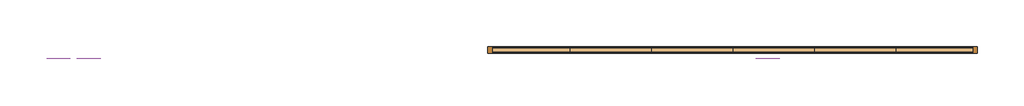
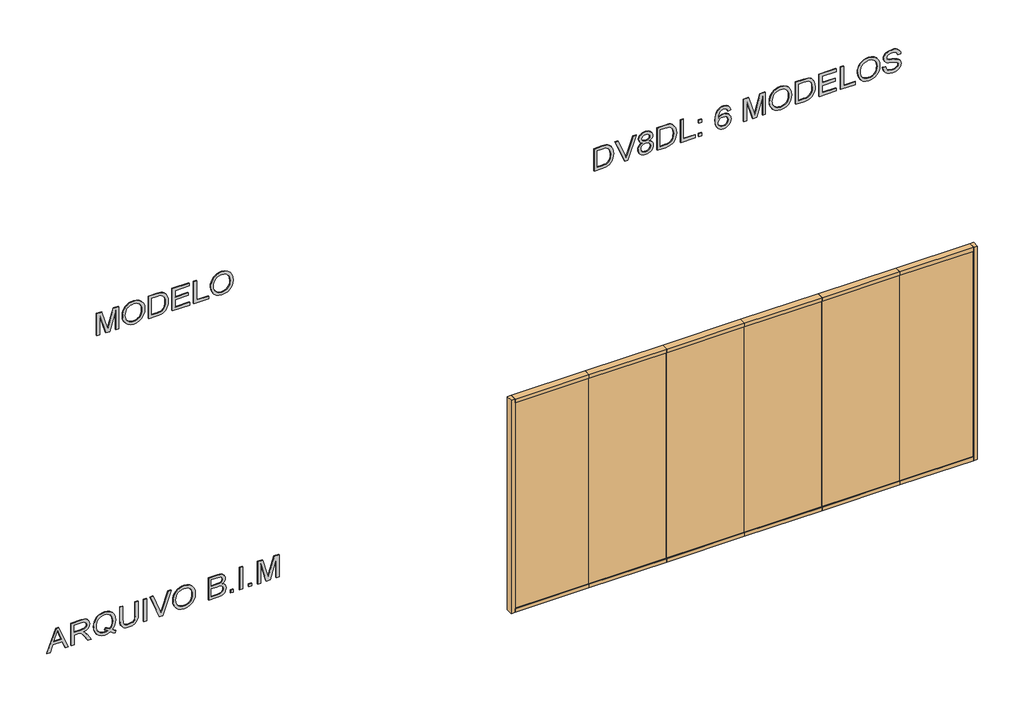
# One storey: 6 doors, 3 proxies.
"""IFC4 building model written with IfcOpenShell, lengths in millimetres."""

from ifc_helpers import new_model, si_unit, frame, origin, place, context, project, spatial, polyline, outline, extrude, transform, mapped, element, save
from components import dv8dl_8mm_8mm_laminado_b832ceb3, dv8dl_8mm_8mm_laminado_bab0a7c5, dv8dl_8mm_8mm_laminado_8a779c50, dv8dl_8mm_8mm_laminado_174facb9

model = new_model("IFC4")

# Units and contexts
model_context = context("Model", 3, world=origin())
ifc_project = project(units=[si_unit("LENGTHUNIT", "METRE", prefix="MILLI")], contexts=[model_context])

# Site, building, storey
site = spatial("IfcSite", under=ifc_project)
building = spatial("IfcBuilding", under=site)
storey = spatial("IfcBuildingStorey", under=building, Name="03 - Marelli - Planta Baixa - Exemplo", Elevation=-24000.0)

# Proxies
placement = place(None, origin())
element("IfcBuildingElementProxy", 1, Name="300mm Arial", ObjectType="300mm Arial", at=placement, inside=storey, context=model_context, shape_type="SweptSolid", body=[
    extrude(outline(polyline([(-22400.0, -7636.3146377), (-22400.0, -7596.5098058), (-22305.8222092, -7562.076051), (-22305.8222092, -7437.9526659), (-22400.0, -7403.4453347), (-22400.0, -7363.6405028), (-22098.6310696, -7483.9379153), (-22098.6310696, -7516.0172252), (-22400.0, -7636.3146377)]), holes=[polyline([(-22268.1510929, -7548.243688), (-22187.584936, -7518.739552), (-22136.3021859, -7499.9775703), (-22194.0596591, -7478.8611437), (-22268.1510929, -7451.7114525), (-22268.1510929, -7548.243688)])]), frame((0.0, 8778.3159498, 0.0), z_axis=(0.0, 1.0, 0.0), x_axis=(0.0, 0.0, 1.0)), (0.0, 0.0, 1.0), 10.0),
    extrude(outline(polyline([(-22400.0, -7323.3942126), (-22400.0, -7285.7230963), (-22268.1510929, -7285.7230963), (-22268.1510929, -7240.2528817), (-22269.4754681, -7218.4006911), (-22276.649167, -7200.484838), (-22296.183701, -7180.582422), (-22337.5336372, -7152.2555084), (-22400.0, -7113.0392877), (-22400.0, -7069.2613303), (-22318.3301971, -7119.5140108), (-22279.5554348, -7150.0482164), (-22263.4422034, -7171.4589486), (-22253.4542072, -7134.3488523), (-22245.4389783, -7119.9669655), (-22235.4095954, -7108.3671864), (-22210.7982899, -7093.0540983), (-22181.1102129, -7087.9497357), (-22157.2438684, -7091.0307474), (-22135.5296337, -7100.2737825), (-22118.0184507, -7114.6763626), (-22106.7612616, -7133.2360093), (-22100.6636176, -7158.629064), (-22098.6310696, -7193.5318683), (-22098.6310696, -7323.3942126), (-22400.0, -7323.3942126)]), holes=[polyline([(-22230.4799766, -7285.7230963), (-22136.3021859, -7285.7230963), (-22136.3021859, -7191.9131875), (-22139.5579415, -7162.1055488), (-22149.3252085, -7141.5501423), (-22164.1324588, -7129.6031746), (-22182.5081645, -7125.620852), (-22195.8162956, -7127.7085823), (-22208.0759631, -7133.9717732), (-22218.2111121, -7144.254075), (-22225.1456877, -7158.3991377), (-22229.1464044, -7177.1887106), (-22230.4799766, -7201.404543), (-22230.4799766, -7285.7230963)])]), frame((0.0, 8778.3159498, 0.0), z_axis=(0.0, 1.0, 0.0), x_axis=(0.0, 0.0, 1.0)), (0.0, 0.0, 1.0), 10.0),
    extrude(outline(polyline([(-22363.8739881, -6795.6307023), (-22340.3479345, -6777.1814202), (-22313.0326963, -6764.0664271), (-22281.9650618, -6756.2305406), (-22247.1818192, -6753.6185784), (-22205.3536364, -6757.9227978), (-22168.0136138, -6770.8354558), (-22136.8172207, -6791.9610794), (-22113.4199258, -6820.9041954), (-22098.7966164, -6855.7702114), (-22093.92218, -6894.6645354), (-22098.6862519, -6933.2553567), (-22112.9784674, -6967.9466288), (-22136.3849593, -6996.93573), (-22168.4918604, -7018.4200386), (-22206.944726, -7031.7189727), (-22249.3891112, -7036.1519507), (-22291.7967082, -7031.7097756), (-22329.6977507, -7018.3832504), (-22361.3539964, -6996.8161684), (-22385.0272028, -6967.6523232), (-22399.7884679, -6932.8322924), (-22404.7088895, -6894.2966534), (-22400.4414584, -6855.9449554), (-22387.639165, -6821.0881364), (-22408.47968, -6790.1308665), (-22422.8822601, -6759.063232), (-22395.2911105, -6748.9096889), (-22382.4704229, -6771.2953083), (-22363.8739881, -6795.6307023)]), holes=[polyline([(-22313.7684603, -6883.9223811), (-22342.6104088, -6893.6344658), (-22349.287467, -6873.2721974), (-22359.3122513, -6853.9767867), (-22365.1063928, -6873.6032912), (-22367.0377732, -6894.5173826), (-22365.1362832, -6916.2385151), (-22359.431813, -6935.9316982), (-22349.9243627, -6953.5969318), (-22336.6139322, -6969.2342158), (-22319.748842, -6982.0296115), (-22299.5774124, -6991.1691798), (-22276.0996433, -6996.6529208), (-22249.3155348, -6998.4808344), (-22221.8140564, -6996.6322274), (-22197.9500112, -6991.0864063), (-22177.7233993, -6981.8433712), (-22161.1342205, -6968.903122), (-22148.2100662, -6953.1577726), (-22138.9785274, -6935.4994369), (-22133.4396041, -6915.9281147), (-22131.5932963, -6894.4438062), (-22135.2445251, -6865.9605427), (-22146.1982115, -6840.4019411), (-22163.7645768, -6819.2027411), (-22187.2538422, -6803.7976826), (-22215.9394408, -6794.4166917), (-22249.0948056, -6791.2896947), (-22278.2678478, -6793.5015852), (-22303.5413409, -6800.1372567), (-22324.9152848, -6811.1967092), (-22342.3896796, -6826.6799427), (-22325.7430193, -6852.2477413), (-22313.7684603, -6883.9223811)])]), frame((0.0, 8778.3159498, 0.0), z_axis=(0.0, 1.0, 0.0), x_axis=(0.0, 0.0, 1.0)), (0.0, 0.0, 1.0), 10.0),
    extrude(outline(polyline([(-22098.6310696, -6499.3385434), (-22271.1677253, -6499.3385434), (-22318.3301971, -6504.1026152), (-22335.0688279, -6510.057705), (-22347.2457219, -6518.3948307), (-22355.9047444, -6529.5278596), (-22362.0897604, -6543.8706589), (-22367.0377732, -6582.1855687), (-22364.5361757, -6606.3554158), (-22357.031383, -6626.4785609), (-22344.9188683, -6641.9112106), (-22328.5941047, -6652.0095714), (-22305.0220659, -6657.5829836), (-22271.1677253, -6659.4407877), (-22098.6310696, -6659.4407877), (-22098.6310696, -6697.111904), (-22272.4921005, -6697.111904), (-22315.2675795, -6694.2516215), (-22347.9446977, -6685.6707739), (-22372.3076828, -6670.4036711), (-22390.1407625, -6647.4846228), (-22401.0668578, -6616.904432), (-22404.7088895, -6578.6539015), (-22400.5242318, -6539.5480454), (-22387.9702588, -6508.7563224), (-22368.7484245, -6486.2235502), (-22344.5601833, -6471.8945465), (-22313.2074403, -6464.2242069), (-22272.4921005, -6461.6674271), (-22098.6310696, -6461.6674271), (-22098.6310696, -6499.3385434)])), frame((0.0, 8778.3159498, 0.0), z_axis=(0.0, 1.0, 0.0), x_axis=(0.0, 0.0, 1.0)), (0.0, 0.0, 1.0), 10.0),
    extrude(outline(polyline([(-6353.3629677, 8778.3159498), (-6391.034084, 8778.3159498), (-6391.034084, 8788.3159498), (-6353.3629677, 8788.3159498), (-6353.3629677, 8778.3159498)])), frame((0.0, 0.0, -22400.0), z_axis=(0.0, 0.0, 1.0), x_axis=(1.0, 0.0, 0.0)), (0.0, 0.0, 1.0), 301.3689304),
    extrude(outline(polyline([(-22400.0, -6188.9932922), (-22400.0, -6150.0713771), (-22098.6310696, -6035.2186183), (-22098.6310696, -6075.5384849), (-22315.7550231, -6156.0310655), (-22364.6833285, -6172.0707205), (-22315.7550231, -6188.3311046), (-22098.6310696, -6268.602956), (-22098.6310696, -6308.9228227), (-22400.0, -6188.9932922)])), frame((0.0, 8778.3159498, 0.0), z_axis=(0.0, 1.0, 0.0), x_axis=(0.0, 0.0, 1.0)), (0.0, 0.0, 1.0), 10.0),
    extrude(outline(polyline([(-22253.2886603, -6014.3229209), (-22291.8334964, -6010.0187016), (-22328.2997991, -5997.1060436), (-22359.992833, -5975.8424642), (-22384.2178624, -5946.485481), (-22399.5861328, -5910.8377157), (-22404.7088895, -5870.70179), (-22400.0735764, -5832.892718), (-22386.167637, -5797.7507904), (-22363.2485887, -5767.7868019), (-22331.5739489, -5745.5115471), (-22293.1118863, -5731.6883811), (-22249.8305696, -5727.0806591), (-22207.1194699, -5731.4584548), (-22169.1908362, -5744.5918421), (-22137.5713787, -5766.0761506), (-22113.7878078, -5795.5067102), (-22098.8885869, -5830.9521404), (-22093.92218, -5870.4810608), (-22096.5663319, -5900.7715446), (-22104.4987874, -5928.1465636), (-22117.7195466, -5952.6061177), (-22136.2286095, -5974.1502071), (-22159.4097737, -5991.7257694), (-22186.6468369, -6004.2797425), (-22217.9397991, -6011.8121263), (-22253.2886603, -6014.3229209)]), holes=[polyline([(-22253.6565423, -5976.6518046), (-22223.1200375, -5974.6882345), (-22197.2878236, -5968.797524), (-22176.1599008, -5958.9796733), (-22159.736269, -5945.2346822), (-22147.4237184, -5928.7673644), (-22138.6290395, -5910.7825334), (-22133.3522321, -5891.2801891), (-22131.5932963, -5870.2603316), (-22135.2445251, -5841.0964864), (-22146.1982115, -5814.9676677), (-22163.7921679, -5793.3086153), (-22187.3642068, -5777.5540688), (-22216.1877611, -5767.9523488), (-22249.536264, -5764.7517754), (-22276.0743514, -5766.6210758), (-22299.4026684, -5772.228977), (-22319.521215, -5781.5754789), (-22336.4299912, -5794.6605816), (-22349.8208959, -5810.642755), (-22359.3858277, -5828.6804691), (-22365.1247869, -5848.7737238), (-22367.0377732, -5870.9225192), (-22365.143181, -5892.6988341), (-22359.4594041, -5912.557564), (-22349.9864428, -5930.4987091), (-22336.7242968, -5946.5222692), (-22320.1650085, -5959.703941), (-22300.80062, -5969.1194208), (-22278.6311313, -5974.7687087), (-22253.6565423, -5976.6518046)])]), frame((0.0, 8778.3159498, 0.0), z_axis=(0.0, 1.0, 0.0), x_axis=(0.0, 0.0, 1.0)), (0.0, 0.0, 1.0), 10.0),
    extrude(outline(polyline([(-22400.0, -5557.5606357), (-22400.0, -5443.4436408), (-22394.8128639, -5395.1407348), (-22388.3933231, -5377.10532), (-22379.5089729, -5362.3624491), (-22367.2401083, -5350.3235108), (-22350.6670244, -5340.399894), (-22331.1784758, -5333.7504269), (-22310.1632168, -5331.5339379), (-22284.944906, -5334.7804965), (-22263.2950506, -5344.5201723), (-22246.3356906, -5360.2931129), (-22235.1888662, -5381.6394656), (-22223.4442335, -5363.7695977), (-22208.5174215, -5351.0684718), (-22191.456894, -5343.4809057), (-22173.3111146, -5340.951717), (-22153.5926396, -5343.9591523), (-22134.7570815, -5352.9814582), (-22118.7450176, -5367.3104619), (-22107.4970256, -5386.2379906), (-22100.8475586, -5410.9320695), (-22098.6310696, -5442.560724), (-22098.6310696, -5557.5606357), (-22400.0, -5557.5606357)]), holes=[polyline([(-22221.0621975, -5519.8895194), (-22136.3021859, -5519.8895194), (-22136.3021859, -5456.3195106), (-22140.2385232, -5407.9062401), (-22145.8395266, -5395.4166463), (-22154.769862, -5386.2012024), (-22166.2109921, -5380.5174255), (-22179.3443793, -5378.6228333), (-22192.8732397, -5380.6553813), (-22203.8821084, -5386.7530254), (-22212.2422267, -5396.8605832), (-22217.824836, -5410.9228724), (-22221.0621975, -5451.0955863), (-22221.0621975, -5519.8895194)]), polyline([(-22362.3288837, -5519.8895194), (-22258.7333139, -5519.8895194), (-22258.7333139, -5446.3131204), (-22259.9933097, -5419.4853259), (-22263.7732972, -5399.776048), (-22270.6618875, -5385.8609115), (-22281.247692, -5376.4155413), (-22294.7857494, -5371.007676), (-22310.5310988, -5369.2050542), (-22324.0875503, -5370.7409615), (-22335.9149564, -5375.3486835), (-22352.6535872, -5391.0204565), (-22360.8573557, -5414.6752688), (-22362.3288837, -5442.6343004), (-22362.3288837, -5519.8895194)])]), frame((0.0, 8778.3159498, 0.0), z_axis=(0.0, 1.0, 0.0), x_axis=(0.0, 0.0, 1.0)), (0.0, 0.0, 1.0), 10.0),
    extrude(outline(polyline([(-5237.3561471, 8778.3159498), (-5275.0272634, 8778.3159498), (-5275.0272634, 8788.3159498), (-5237.3561471, 8788.3159498), (-5237.3561471, 8778.3159498)])), frame((0.0, 0.0, -22400.0), z_axis=(0.0, 0.0, 1.0), x_axis=(1.0, 0.0, 0.0)), (0.0, 0.0, 1.0), 37.6711163),
    extrude(outline(polyline([(-5119.6339087, 8778.3159498), (-5157.305025, 8778.3159498), (-5157.305025, 8788.3159498), (-5119.6339087, 8788.3159498), (-5119.6339087, 8778.3159498)])), frame((0.0, 0.0, -22400.0), z_axis=(0.0, 0.0, 1.0), x_axis=(1.0, 0.0, 0.0)), (0.0, 0.0, 1.0), 301.3689304),
    extrude(outline(polyline([(-5001.9116702, 8778.3159498), (-5039.5827865, 8778.3159498), (-5039.5827865, 8788.3159498), (-5001.9116702, 8788.3159498), (-5001.9116702, 8778.3159498)])), frame((0.0, 0.0, -22400.0), z_axis=(0.0, 0.0, 1.0), x_axis=(1.0, 0.0, 0.0)), (0.0, 0.0, 1.0), 37.6711163),
    extrude(outline(polyline([(-22400.0, -4926.5694376), (-22400.0, -4888.8983213), (-22136.3021859, -4888.8983213), (-22400.0, -4813.1882067), (-22400.0, -4762.1261857), (-22136.3021859, -4686.4160711), (-22400.0, -4686.4160711), (-22400.0, -4648.7449548), (-22098.6310696, -4648.7449548), (-22098.6310696, -4713.5657624), (-22307.3673136, -4774.1927152), (-22355.4127022, -4787.6571962), (-22311.0461336, -4800.0916076), (-22098.6310696, -4861.74863), (-22098.6310696, -4926.5694376), (-22400.0, -4926.5694376)])), frame((0.0, 8778.3159498, 0.0), z_axis=(0.0, 1.0, 0.0), x_axis=(0.0, 0.0, 1.0)), (0.0, 0.0, 1.0), 10.0),
])
element("IfcBuildingElementProxy", 2, Name="300mm Arial", ObjectType="300mm Arial", at=placement, inside=storey, context=model_context, shape_type="SweptSolid", body=[
    extrude(outline(polyline([(-18300.0, -6993.7719449), (-18300.0, -6956.1008286), (-18036.3021859, -6956.1008286), (-18300.0, -6880.390714), (-18300.0, -6829.328693), (-18036.3021859, -6753.6185784), (-18300.0, -6753.6185784), (-18300.0, -6715.9474621), (-17998.6310696, -6715.9474621), (-17998.6310696, -6780.7682697), (-18207.3673136, -6841.3952225), (-18255.4127022, -6854.8597035), (-18211.0461336, -6867.2941149), (-17998.6310696, -6928.9511373), (-17998.6310696, -6993.7719449), (-18300.0, -6993.7719449)])), frame((0.0, 8778.3159498, 0.0), z_axis=(0.0, 1.0, 0.0), x_axis=(0.0, 0.0, 1.0)), (0.0, 0.0, 1.0), 10.0),
    extrude(outline(polyline([(-18153.2886603, -6664.1496772), (-18191.8334964, -6659.8454579), (-18228.2997991, -6646.9327998), (-18259.992833, -6625.6692205), (-18284.2178624, -6596.3122373), (-18299.5861328, -6560.664472), (-18304.7088895, -6520.5285463), (-18300.0735764, -6482.7194742), (-18286.167637, -6447.5775466), (-18263.2485887, -6417.6135581), (-18231.5739489, -6395.3383033), (-18193.1118863, -6381.5151374), (-18149.8305696, -6376.9074154), (-18107.1194699, -6381.2852111), (-18069.1908362, -6394.4185983), (-18037.5713787, -6415.9029069), (-18013.7878078, -6445.3334665), (-17998.8885869, -6480.7788967), (-17993.92218, -6520.3078171), (-17996.5663319, -6550.5983009), (-18004.4987874, -6577.9733198), (-18017.7195466, -6602.432874), (-18036.2286095, -6623.9769633), (-18059.4097737, -6641.5525257), (-18086.6468369, -6654.1064987), (-18117.9397991, -6661.6388826), (-18153.2886603, -6664.1496772)]), holes=[polyline([(-18153.6565423, -6626.4785609), (-18123.1200375, -6624.5149908), (-18097.2878236, -6618.6242803), (-18076.1599008, -6608.8064296), (-18059.736269, -6595.0614385), (-18047.4237184, -6578.5941207), (-18038.6290395, -6560.6092897), (-18033.3522321, -6541.1069454), (-18031.5932963, -6520.0870879), (-18035.2445251, -6490.9232427), (-18046.1982115, -6464.794424), (-18063.7921679, -6443.1353716), (-18087.3642068, -6427.3808251), (-18116.1877611, -6417.779105), (-18149.536264, -6414.5785317), (-18176.0743514, -6416.4478321), (-18199.4026684, -6422.0557332), (-18219.521215, -6431.4022352), (-18236.4299912, -6444.4873379), (-18249.8208959, -6460.4695113), (-18259.3858277, -6478.5072254), (-18265.1247869, -6498.6004801), (-18267.0377732, -6520.7492755), (-18265.143181, -6542.5255903), (-18259.4594041, -6562.3843203), (-18249.9864428, -6580.3254653), (-18236.7242968, -6596.3490255), (-18220.1650085, -6609.5306972), (-18200.80062, -6618.9461771), (-18178.6311313, -6624.5954649), (-18153.6565423, -6626.4785609)])]), frame((0.0, 8778.3159498, 0.0), z_axis=(0.0, 1.0, 0.0), x_axis=(0.0, 0.0, 1.0)), (0.0, 0.0, 1.0), 10.0),
    extrude(outline(polyline([(-18300.0, -6325.1096305), (-18300.0, -6216.1429835), (-18294.8496521, -6167.6929247), (-18288.4944906, -6148.1491937), (-18279.7297021, -6131.6772774), (-18267.911493, -6117.3298796), (-18252.3960698, -6104.1597042), (-18232.7419742, -6092.7185741), (-18208.5077478, -6083.5583124), (-18180.0428784, -6077.5434418), (-18147.696854, -6075.5384849), (-18109.6210675, -6078.499935), (-18076.0334413, -6087.3842852), (-18047.4857985, -6102.2283237), (-18024.529962, -6123.0688387), (-18011.3413925, -6143.3391366), (-18002.9720771, -6167.3618309), (-17998.6310696, -6221.1461786), (-17998.6310696, -6325.1096305), (-18300.0, -6325.1096305)]), holes=[polyline([(-18262.3288837, -6287.4385141), (-18036.3021859, -6287.4385141), (-18036.3021859, -6221.8083662), (-18037.810502, -6190.06015), (-18042.3354506, -6168.3919005), (-18054.9170148, -6147.10073), (-18075.7391357, -6129.2860444), (-18106.0526121, -6117.228712), (-18147.1082428, -6113.2096012), (-18178.0931038, -6115.2605434), (-18204.0931639, -6121.4133697), (-18225.2003933, -6131.245016), (-18241.5067628, -6144.332418), (-18250.3175366, -6156.5093121), (-18256.8842302, -6172.2914497), (-18260.9677203, -6193.2055411), (-18262.3288837, -6220.7782966), (-18262.3288837, -6287.4385141)])]), frame((0.0, 8778.3159498, 0.0), z_axis=(0.0, 1.0, 0.0), x_axis=(0.0, 0.0, 1.0)), (0.0, 0.0, 1.0), 10.0),
    extrude(outline(polyline([(-18300.0, -6023.7407), (-18300.0, -5802.4228917), (-18262.3288837, -5802.4228917), (-18262.3288837, -5986.0695837), (-18163.4422034, -5986.0695837), (-18163.4422034, -5816.5495603), (-18125.7710871, -5816.5495603), (-18125.7710871, -5986.0695837), (-18036.3021859, -5986.0695837), (-18036.3021859, -5807.1317812), (-17998.6310696, -5807.1317812), (-17998.6310696, -6023.7407), (-18300.0, -6023.7407)])), frame((0.0, 8778.3159498, 0.0), z_axis=(0.0, 1.0, 0.0), x_axis=(0.0, 0.0, 1.0)), (0.0, 0.0, 1.0), 10.0),
    extrude(outline(polyline([(-18300.0, -5745.9162172), (-18300.0, -5557.5606357), (-18262.3288837, -5557.5606357), (-18262.3288837, -5708.2451009), (-17998.6310696, -5708.2451009), (-17998.6310696, -5745.9162172), (-18300.0, -5745.9162172)])), frame((0.0, 8778.3159498, 0.0), z_axis=(0.0, 1.0, 0.0), x_axis=(0.0, 0.0, 1.0)), (0.0, 0.0, 1.0), 10.0),
    extrude(outline(polyline([(-18153.2886603, -5529.3072985), (-18191.8334964, -5525.0030791), (-18228.2997991, -5512.0904211), (-18259.992833, -5490.8268418), (-18284.2178624, -5461.4698586), (-18299.5861328, -5425.8220932), (-18304.7088895, -5385.6861676), (-18300.0735764, -5347.8770955), (-18286.167637, -5312.7351679), (-18263.2485887, -5282.7711794), (-18231.5739489, -5260.4959246), (-18193.1118863, -5246.6727586), (-18149.8305696, -5242.0650367), (-18107.1194699, -5246.4428324), (-18069.1908362, -5259.5762196), (-18037.5713787, -5281.0605281), (-18013.7878078, -5310.4910878), (-17998.8885869, -5345.936518), (-17993.92218, -5385.4654384), (-17996.5663319, -5415.7559222), (-18004.4987874, -5443.1309411), (-18017.7195466, -5467.5904953), (-18036.2286095, -5489.1345846), (-18059.4097737, -5506.7101469), (-18086.6468369, -5519.26412), (-18117.9397991, -5526.7965039), (-18153.2886603, -5529.3072985)]), holes=[polyline([(-18153.6565423, -5491.6361822), (-18123.1200375, -5489.672612), (-18097.2878236, -5483.7819016), (-18076.1599008, -5473.9640508), (-18059.736269, -5460.2190598), (-18047.4237184, -5443.751742), (-18038.6290395, -5425.7669109), (-18033.3522321, -5406.2645667), (-18031.5932963, -5385.2447092), (-18035.2445251, -5356.080864), (-18046.1982115, -5329.9520453), (-18063.7921679, -5308.2929928), (-18087.3642068, -5292.5384464), (-18116.1877611, -5282.9367263), (-18149.536264, -5279.736153), (-18176.0743514, -5281.6054533), (-18199.4026684, -5287.2133545), (-18219.521215, -5296.5598565), (-18236.4299912, -5309.6449592), (-18249.8208959, -5325.6271326), (-18259.3858277, -5343.6648467), (-18265.1247869, -5363.7581014), (-18267.0377732, -5385.9068968), (-18265.143181, -5407.6832116), (-18259.4594041, -5427.5419416), (-18249.9864428, -5445.4830866), (-18236.7242968, -5461.5066468), (-18220.1650085, -5474.6883185), (-18200.80062, -5484.1037983), (-18178.6311313, -5489.7530862), (-18153.6565423, -5491.6361822)])]), frame((0.0, 8778.3159498, 0.0), z_axis=(0.0, 1.0, 0.0), x_axis=(0.0, 0.0, 1.0)), (0.0, 0.0, 1.0), 10.0),
])
element("IfcBuildingElementProxy", 3, Name="300mm Arial", ObjectType="300mm Arial", at=placement, inside=storey, context=model_context, shape_type="SweptSolid", body=[
    extrude(outline(polyline([(-18300.0, -595.6520968), (-18300.0, -486.6854499), (-18294.8496521, -438.2353911), (-18288.4944906, -418.6916601), (-18279.7297021, -402.2197438), (-18267.911493, -387.872346), (-18252.3960698, -374.7021705), (-18232.7419742, -363.2610405), (-18208.5077478, -354.1007788), (-18180.0428784, -348.0859082), (-18147.696854, -346.0809513), (-18109.6210675, -349.0424014), (-18076.0334413, -357.9267516), (-18047.4857985, -372.7707901), (-18024.529962, -393.6113051), (-18011.3413925, -413.881603), (-18002.9720771, -437.9042973), (-17998.6310696, -491.688645), (-17998.6310696, -595.6520968), (-18300.0, -595.6520968)]), holes=[polyline([(-18262.3288837, -557.9809805), (-18036.3021859, -557.9809805), (-18036.3021859, -492.3508326), (-18037.810502, -460.6026164), (-18042.3354506, -438.9343669), (-18054.9170148, -417.6431964), (-18075.7391357, -399.8285108), (-18106.0526121, -387.7711784), (-18147.1082428, -383.7520676), (-18178.0931038, -385.8030097), (-18204.0931639, -391.9558361), (-18225.2003933, -401.7874824), (-18241.5067628, -414.8748844), (-18250.3175366, -427.0517785), (-18256.8842302, -442.833916), (-18260.9677203, -463.7480075), (-18262.3288837, -491.320763), (-18262.3288837, -557.9809805)])]), frame((0.0, 8778.3159498, 0.0), z_axis=(0.0, 1.0, 0.0), x_axis=(0.0, 0.0, 1.0)), (0.0, 0.0, 1.0), 10.0),
    extrude(outline(polyline([(-18300.0, -205.2557236), (-18300.0, -166.3338085), (-17998.6310696, -51.4810496), (-17998.6310696, -91.8009162), (-18215.7550231, -172.2934968), (-18264.6833285, -188.3331518), (-18215.7550231, -204.593536), (-17998.6310696, -284.8653873), (-17998.6310696, -325.185254), (-18300.0, -205.2557236)])), frame((0.0, 8778.3159498, 0.0), z_axis=(0.0, 1.0, 0.0), x_axis=(0.0, 0.0, 1.0)), (0.0, 0.0, 1.0), 10.0),
    extrude(outline(polyline([(-18134.0116438, 24.3026414), (-18144.4962806, 0.9789229), (-18161.3820642, -16.3115308), (-18183.8964423, -27.0168969), (-18211.2668628, -30.5853522), (-18230.4174199, -28.883898), (-18247.9171065, -23.7795353), (-18263.7659227, -15.2722642), (-18277.9638685, -3.3620846), (-18289.6648152, 11.3256041), (-18298.0226343, 28.1654024), (-18303.0373257, 47.1573104), (-18304.7088895, 68.3013281), (-18303.0442235, 89.4453457), (-18298.0502254, 108.4372537), (-18289.7268953, 125.2770521), (-18278.0742331, 139.9647407), (-18263.9751556, 151.8749203), (-18248.3125797, 160.3821914), (-18231.0865053, 165.4865541), (-18212.2969323, 167.1880084), (-18185.9473844, 163.7575088), (-18163.552568, 153.4660099), (-18145.9586116, 136.5894234), (-18134.0116438, 113.4036607), (-18124.1064211, 132.9289976), (-18110.7247135, 146.7705576), (-18094.2895853, 155.0203114), (-18075.2241009, 157.7702293), (-18059.8282394, 156.2251249), (-18045.6463885, 151.5898118), (-18032.6785482, 143.8642899), (-18020.9247185, 133.0485592), (-18011.1712471, 119.6990413), (-18004.2044818, 104.3721577), (-17998.6310696, 67.7862933), (-18004.0757231, 31.421158), (-18010.88154, 16.2598213), (-18020.4096837, 3.1126385), (-18031.9381857, -7.5099541), (-18044.7450776, -15.0975203), (-18058.8303595, -19.6500599), (-18074.1940314, -21.1675732), (-18093.8941122, -18.3808671), (-18110.6143489, -10.0207487), (-18124.0788299, 4.133511), (-18134.0116438, 24.3026414)]), holes=[polyline([(-18075.2976773, 16.5035431), (-18060.3984565, 19.8972545), (-18047.7801041, 30.0783888), (-18039.1716654, 46.4215464), (-18036.3021859, 68.3013281), (-18039.2360448, 90.043154), (-18048.0376215, 106.4139028), (-18061.1434176, 116.6778104), (-18076.9899345, 120.099113), (-18092.2570373, 116.788175), (-18104.9489662, 106.8553611), (-18113.5022225, 90.7053416), (-18116.353308, 68.7427864), (-18113.4838284, 46.2559995), (-18104.8753898, 29.8576596), (-18091.7420025, 19.8420722), (-18075.2976773, 16.5035431)]), polyline([(-18209.9424876, 7.0857641), (-18187.9615384, 11.0680867), (-18169.9905029, 23.0150544), (-18158.015944, 42.0621447), (-18154.0244243, 67.3448349), (-18158.0711263, 93.2805155), (-18170.2112321, 112.9622023), (-18188.5317555, 125.3782196), (-18211.11971, 129.5168921), (-18233.3305854, 125.5069783), (-18251.2556356, 113.4772371), (-18263.0922388, 94.2370087), (-18267.0377732, 68.5956337), (-18265.1615751, 51.8570029), (-18259.5329805, 35.6334069), (-18250.4738864, 22.0861524), (-18238.3061894, 13.3765462), (-18209.9424876, 7.0857641)])]), frame((0.0, 8778.3159498, 0.0), z_axis=(0.0, 1.0, 0.0), x_axis=(0.0, 0.0, 1.0)), (0.0, 0.0, 1.0), 10.0),
    extrude(outline(polyline([(-18300.0, 214.2769037), (-18300.0, 323.2435507), (-18294.8496521, 371.6936095), (-18288.4944906, 391.2373405), (-18279.7297021, 407.7092568), (-18267.911493, 422.0566546), (-18252.3960698, 435.22683), (-18232.7419742, 446.6679601), (-18208.5077478, 455.8282218), (-18180.0428784, 461.8430924), (-18147.696854, 463.8480493), (-18109.6210675, 460.8865992), (-18076.0334413, 452.002249), (-18047.4857985, 437.1582105), (-18024.529962, 416.3176955), (-18011.3413925, 396.0473976), (-18002.9720771, 372.0247033), (-17998.6310696, 318.2403556), (-17998.6310696, 214.2769037), (-18300.0, 214.2769037)]), holes=[polyline([(-18262.3288837, 251.94802), (-18036.3021859, 251.94802), (-18036.3021859, 317.578168), (-18037.810502, 349.3263842), (-18042.3354506, 370.9946337), (-18054.9170148, 392.2858042), (-18075.7391357, 410.1004898), (-18106.0526121, 422.1578222), (-18147.1082428, 426.176933), (-18178.0931038, 424.1259908), (-18204.0931639, 417.9731645), (-18225.2003933, 408.1415181), (-18241.5067628, 395.0541162), (-18250.3175366, 382.8772221), (-18256.8842302, 367.0950845), (-18260.9677203, 346.1809931), (-18262.3288837, 318.6082376), (-18262.3288837, 251.94802)])]), frame((0.0, 8778.3159498, 0.0), z_axis=(0.0, 1.0, 0.0), x_axis=(0.0, 0.0, 1.0)), (0.0, 0.0, 1.0), 10.0),
    extrude(outline(polyline([(-18300.0, 515.6458342), (-18300.0, 704.0014157), (-18262.3288837, 704.0014157), (-18262.3288837, 553.3169505), (-17998.6310696, 553.3169505), (-17998.6310696, 515.6458342), (-18300.0, 515.6458342)])), frame((0.0, 8778.3159498, 0.0), z_axis=(0.0, 1.0, 0.0), x_axis=(0.0, 0.0, 1.0)), (0.0, 0.0, 1.0), 10.0),
    extrude(outline(polyline([(788.7614274, 8778.3159498), (751.0903111, 8778.3159498), (751.0903111, 8788.3159498), (788.7614274, 8788.3159498), (788.7614274, 8778.3159498)])), frame((0.0, 0.0, -18116.353308), z_axis=(0.0, 0.0, 1.0), x_axis=(1.0, 0.0, 0.0)), (0.0, 0.0, 1.0), 37.6711163),
    extrude(outline(polyline([(788.7614274, 8778.3159498), (751.0903111, 8778.3159498), (751.0903111, 8788.3159498), (788.7614274, 8788.3159498), (788.7614274, 8778.3159498)])), frame((0.0, 0.0, -18300.0), z_axis=(0.0, 0.0, 1.0), x_axis=(1.0, 0.0, 0.0)), (0.0, 0.0, 1.0), 37.6711163),
    extrude(outline(polyline([(-18078.6821917, 1160.7637009), (-18045.2233242, 1151.4930747), (-18019.8946489, 1132.9518221), (-18003.9469644, 1106.4827125), (-17998.6310696, 1073.4285153), (-18000.7785807, 1050.3209275), (-18007.2211141, 1029.7057401), (-18017.9586699, 1011.5829534), (-18032.9912479, 995.9525671), (-18055.6757714, 981.5315929), (-18084.2923921, 971.230897), (-18118.84111, 965.0504795), (-18159.321925, 962.9903403), (-18195.4295429, 964.8458451), (-18226.055719, 970.4123596), (-18251.2004533, 979.6898836), (-18270.863746, 992.6784173), (-18285.6709963, 1008.610007), (-18296.2476036, 1026.7166989), (-18302.5935681, 1046.9984932), (-18304.7088895, 1069.4553897), (-18301.5175132, 1095.5934055), (-18291.9433843, 1118.8251535), (-18276.3635818, 1138.2677169), (-18255.1551848, 1153.038179), (-18230.1484062, 1162.3639876), (-18203.1734589, 1165.4725905), (-18182.8893654, 1163.82172), (-18164.5642435, 1158.8691087), (-18148.1980932, 1150.6147564), (-18133.7909146, 1139.0586632), (-18122.0416834, 1125.1527238), (-18113.6493753, 1109.8488328), (-18108.6139905, 1093.1469902), (-18106.9355289, 1075.0471961), (-18109.3911412, 1053.9767548), (-18116.7579782, 1033.8812008), (-18129.1831926, 1015.7722096), (-18146.8139372, 1000.6614566), (-18107.7356723, 1003.5585273), (-18079.6754731, 1011.3668227), (-18059.8374365, 1022.9275144), (-18045.4256593, 1037.0817742), (-18038.5830542, 1053.5628875), (-18036.3021859, 1071.0740705), (-18040.2201291, 1091.7306445), (-18051.9739589, 1108.8187632), (-18064.72107, 1117.0225317), (-18083.3910812, 1123.0925846), (-18078.6821917, 1160.7637009)]), holes=[polyline([(-18202.5848477, 1000.6614566), (-18179.1047793, 1005.342755), (-18160.609512, 1019.3866502), (-18148.6073619, 1040.1443918), (-18144.6066452, 1064.9672294), (-18148.6073619, 1091.261595), (-18160.609512, 1111.1364198), (-18179.5646318, 1123.6352106), (-18204.4242577, 1127.8014742), (-18230.3231501, 1123.5800283), (-18250.1887779, 1110.9156906), (-18262.8255244, 1091.3719596), (-18267.0377732, 1066.5123338), (-18265.0052252, 1048.2745839), (-18258.9075811, 1032.5568256), (-18248.919585, 1019.533803), (-18235.2159806, 1009.3802599), (-18219.2774932, 1002.8411575), (-18202.5848477, 1000.6614566)])]), frame((0.0, 8778.3159498, 0.0), z_axis=(0.0, 1.0, 0.0), x_axis=(0.0, 0.0, 1.0)), (0.0, 0.0, 1.0), 10.0),
    extrude(outline(polyline([(-18300.0, 1330.2837243), (-18300.0, 1367.9548406), (-18036.3021859, 1367.9548406), (-18300.0, 1443.6649552), (-18300.0, 1494.7269762), (-18036.3021859, 1570.4370908), (-18300.0, 1570.4370908), (-18300.0, 1608.1082071), (-17998.6310696, 1608.1082071), (-17998.6310696, 1543.2873995), (-18207.3673136, 1482.6604467), (-18255.4127022, 1469.1959657), (-18211.0461336, 1456.7615543), (-17998.6310696, 1395.1045319), (-17998.6310696, 1330.2837243), (-18300.0, 1330.2837243)])), frame((0.0, 8778.3159498, 0.0), z_axis=(0.0, 1.0, 0.0), x_axis=(0.0, 0.0, 1.0)), (0.0, 0.0, 1.0), 10.0),
    extrude(outline(polyline([(-18153.2886603, 1659.905992), (-18191.8334964, 1664.2102113), (-18228.2997991, 1677.1228694), (-18259.992833, 1698.3864487), (-18284.2178624, 1727.7434319), (-18299.5861328, 1763.3911972), (-18304.7088895, 1803.5271229), (-18300.0735764, 1841.336195), (-18286.167637, 1876.4781225), (-18263.2485887, 1906.4421111), (-18231.5739489, 1928.7173659), (-18193.1118863, 1942.5405318), (-18149.8305696, 1947.1482538), (-18107.1194699, 1942.7704581), (-18069.1908362, 1929.6370709), (-18037.5713787, 1908.1527623), (-18013.7878078, 1878.7222027), (-17998.8885869, 1843.2767725), (-17993.92218, 1803.7478521), (-17996.5663319, 1773.4573683), (-18004.4987874, 1746.0823494), (-18017.7195466, 1721.6227952), (-18036.2286095, 1700.0787059), (-18059.4097737, 1682.5031435), (-18086.6468369, 1669.9491705), (-18117.9397991, 1662.4167866), (-18153.2886603, 1659.905992)]), holes=[polyline([(-18153.6565423, 1697.5771083), (-18123.1200375, 1699.5406784), (-18097.2878236, 1705.4313889), (-18076.1599008, 1715.2492396), (-18059.736269, 1728.9942307), (-18047.4237184, 1745.4615485), (-18038.6290395, 1763.4463795), (-18033.3522321, 1782.9487238), (-18031.5932963, 1803.9685813), (-18035.2445251, 1833.1324265), (-18046.1982115, 1859.2612452), (-18063.7921679, 1880.9202976), (-18087.3642068, 1896.6748441), (-18116.1877611, 1906.2765642), (-18149.536264, 1909.4771375), (-18176.0743514, 1907.6078371), (-18199.4026684, 1901.999936), (-18219.521215, 1892.653434), (-18236.4299912, 1879.5683313), (-18249.8208959, 1863.5861579), (-18259.3858277, 1845.5484438), (-18265.1247869, 1825.4551891), (-18267.0377732, 1803.3063937), (-18265.143181, 1781.5300789), (-18259.4594041, 1761.6713489), (-18249.9864428, 1743.7302039), (-18236.7242968, 1727.7066437), (-18220.1650085, 1714.524972), (-18200.80062, 1705.1094921), (-18178.6311313, 1699.4602043), (-18153.6565423, 1697.5771083)])]), frame((0.0, 8778.3159498, 0.0), z_axis=(0.0, 1.0, 0.0), x_axis=(0.0, 0.0, 1.0)), (0.0, 0.0, 1.0), 10.0),
    extrude(outline(polyline([(-18300.0, 1998.9460387), (-18300.0, 2107.9126857), (-18294.8496521, 2156.3627445), (-18288.4944906, 2175.9064755), (-18279.7297021, 2192.3783918), (-18267.911493, 2206.7257896), (-18252.3960698, 2219.895965), (-18232.7419742, 2231.3370951), (-18208.5077478, 2240.4973568), (-18180.0428784, 2246.5122274), (-18147.696854, 2248.5171843), (-18109.6210675, 2245.5557342), (-18076.0334413, 2236.671384), (-18047.4857985, 2221.8273455), (-18024.529962, 2200.9868305), (-18011.3413925, 2180.7165326), (-18002.9720771, 2156.6938383), (-17998.6310696, 2102.9094906), (-17998.6310696, 1998.9460387), (-18300.0, 1998.9460387)]), holes=[polyline([(-18262.3288837, 2036.617155), (-18036.3021859, 2036.617155), (-18036.3021859, 2102.247303), (-18037.810502, 2133.9955192), (-18042.3354506, 2155.6637687), (-18054.9170148, 2176.9549392), (-18075.7391357, 2194.7696248), (-18106.0526121, 2206.8269572), (-18147.1082428, 2210.846068), (-18178.0931038, 2208.7951258), (-18204.0931639, 2202.6422995), (-18225.2003933, 2192.8106532), (-18241.5067628, 2179.7232512), (-18250.3175366, 2167.5463571), (-18256.8842302, 2151.7642195), (-18260.9677203, 2130.8501281), (-18262.3288837, 2103.2773726), (-18262.3288837, 2036.617155)])]), frame((0.0, 8778.3159498, 0.0), z_axis=(0.0, 1.0, 0.0), x_axis=(0.0, 0.0, 1.0)), (0.0, 0.0, 1.0), 10.0),
    extrude(outline(polyline([(-18300.0, 2300.3149692), (-18300.0, 2521.6327775), (-18262.3288837, 2521.6327775), (-18262.3288837, 2337.9860855), (-18163.4422034, 2337.9860855), (-18163.4422034, 2507.5061089), (-18125.7710871, 2507.5061089), (-18125.7710871, 2337.9860855), (-18036.3021859, 2337.9860855), (-18036.3021859, 2516.923888), (-17998.6310696, 2516.923888), (-17998.6310696, 2300.3149692), (-18300.0, 2300.3149692)])), frame((0.0, 8778.3159498, 0.0), z_axis=(0.0, 1.0, 0.0), x_axis=(0.0, 0.0, 1.0)), (0.0, 0.0, 1.0), 10.0),
    extrude(outline(polyline([(-18300.0, 2578.1394519), (-18300.0, 2766.4950335), (-18262.3288837, 2766.4950335), (-18262.3288837, 2615.8105683), (-17998.6310696, 2615.8105683), (-17998.6310696, 2578.1394519), (-18300.0, 2578.1394519)])), frame((0.0, 8778.3159498, 0.0), z_axis=(0.0, 1.0, 0.0), x_axis=(0.0, 0.0, 1.0)), (0.0, 0.0, 1.0), 10.0),
    extrude(outline(polyline([(-18153.2886603, 2794.7483707), (-18191.8334964, 2799.0525901), (-18228.2997991, 2811.9652481), (-18259.992833, 2833.2288274), (-18284.2178624, 2862.5858106), (-18299.5861328, 2898.233576), (-18304.7088895, 2938.3695016), (-18300.0735764, 2976.1785737), (-18286.167637, 3011.3205013), (-18263.2485887, 3041.2844898), (-18231.5739489, 3063.5597446), (-18193.1118863, 3077.3829106), (-18149.8305696, 3081.9906325), (-18107.1194699, 3077.6128368), (-18069.1908362, 3064.4794496), (-18037.5713787, 3042.9951411), (-18013.7878078, 3013.5645814), (-17998.8885869, 2978.1191512), (-17993.92218, 2938.5902308), (-17996.5663319, 2908.299747), (-18004.4987874, 2880.9247281), (-18017.7195466, 2856.4651739), (-18036.2286095, 2834.9210846), (-18059.4097737, 2817.3455223), (-18086.6468369, 2804.7915492), (-18117.9397991, 2797.2591653), (-18153.2886603, 2794.7483707)]), holes=[polyline([(-18153.6565423, 2832.419487), (-18123.1200375, 2834.3830572), (-18097.2878236, 2840.2737676), (-18076.1599008, 2850.0916184), (-18059.736269, 2863.8366094), (-18047.4237184, 2880.3039272), (-18038.6290395, 2898.2887583), (-18033.3522321, 2917.7911025), (-18031.5932963, 2938.81096), (-18035.2445251, 2967.9748052), (-18046.1982115, 2994.1036239), (-18063.7921679, 3015.7626764), (-18087.3642068, 3031.5172228), (-18116.1877611, 3041.1189429), (-18149.536264, 3044.3195162), (-18176.0743514, 3042.4502158), (-18199.4026684, 3036.8423147), (-18219.521215, 3027.4958127), (-18236.4299912, 3014.41071), (-18249.8208959, 2998.4285366), (-18259.3858277, 2980.3908225), (-18265.1247869, 2960.2975678), (-18267.0377732, 2938.1487724), (-18265.143181, 2916.3724576), (-18259.4594041, 2896.5137276), (-18249.9864428, 2878.5725826), (-18236.7242968, 2862.5490224), (-18220.1650085, 2849.3673507), (-18200.80062, 2839.9518709), (-18178.6311313, 2834.302583), (-18153.6565423, 2832.419487)])]), frame((0.0, 8778.3159498, 0.0), z_axis=(0.0, 1.0, 0.0), x_axis=(0.0, 0.0, 1.0)), (0.0, 0.0, 1.0), 10.0),
    extrude(outline(polyline([(-18196.4044302, 3119.6617488), (-18226.8282712, 3124.1315151), (-18253.9411742, 3135.922133), (-18276.1980349, 3154.2886416), (-18292.0537489, 3178.4860799), (-18301.5451044, 3208.8639356), (-18304.7088895, 3245.7716968), (-18301.7750306, 3275.8368529), (-18292.9734539, 3302.7566178), (-18278.8835735, 3325.1422373), (-18260.0848035, 3341.6049565), (-18238.2418101, 3351.7309085), (-18215.0192591, 3355.1062258), (-18192.3025459, 3352.1723669), (-18172.4185241, 3343.3707901), (-18155.5511346, 3328.3887959), (-18141.8843185, 3306.9136844), (-18133.0735447, 3281.7873441), (-18122.9751839, 3240.2534669), (-18112.3433943, 3200.0071766), (-18101.9323338, 3178.7435973), (-18090.2888686, 3169.7488825), (-18075.8127121, 3166.7506442), (-18058.8349581, 3170.9812872), (-18044.5427425, 3183.673216), (-18034.8306579, 3205.617377), (-18031.5932963, 3237.6047165), (-18034.8674461, 3268.856292), (-18044.6898953, 3291.3890642), (-18060.9134913, 3305.8100384), (-18083.3910812, 3312.7262199), (-18083.3910812, 3350.3973362), (-18058.4302879, 3346.1482992), (-18036.2286095, 3335.4613272), (-18017.9264802, 3318.5755436), (-18004.6643343, 3295.7300717), (-17996.6077186, 3267.9181929), (-17993.92218, 3236.1331885), (-17996.4881569, 3206.7945994), (-18004.1860877, 3180.2887017), (-18016.8412283, 3158.2065849), (-18034.2788349, 3142.1393388), (-18054.8526355, 3132.3444806), (-18076.9163581, 3129.0795279), (-18096.6532272, 3131.7190812), (-18114.3667452, 3139.6377412), (-18129.7258185, 3152.9274783), (-18142.3993533, 3171.680263), (-18151.4584474, 3194.7188729), (-18160.977394, 3230.7253232), (-18175.36158, 3285.5765287), (-18183.1698754, 3301.6529719), (-18192.4680928, 3311.1811155), (-18203.3665969, 3315.871611), (-18215.9757523, 3317.4351095), (-18228.9160015, 3315.3473791), (-18241.2492454, 3309.0841882), (-18251.9913996, 3298.5535661), (-18260.1583799, 3283.6635423), (-18265.3179249, 3265.2878366), (-18267.0377732, 3244.3001688), (-18264.7661019, 3220.4614155), (-18257.951088, 3199.1242598), (-18247.448057, 3181.6682591), (-18234.1123347, 3169.472971), (-18217.3093245, 3161.6554786), (-18196.4044302, 3157.3328652), (-18196.4044302, 3119.6617488)])), frame((0.0, 8778.3159498, 0.0), z_axis=(0.0, 1.0, 0.0), x_axis=(0.0, 0.0, 1.0)), (0.0, 0.0, 1.0), 10.0),
])

# Doors
dv8dl_8mm_8mm_laminado_shape = dv8dl_8mm_8mm_laminado_b832ceb3(model_context)
element("IfcDoor", 4, ObjectType="Mobiliário_Mobiliário de Escritório_Painel Vidro Duplo - DVDT, DVDL e DVXL (Inicial e Final)_Marelli : DV8DL - 8mm + 8mm - Laminado", at=placement, inside=storey, context=model_context, shape_type="MappedRepresentation", body=[
    mapped(dv8dl_8mm_8mm_laminado_shape, transform((3875.0181749, 8888.3159498, -24000.0), x_axis=(-1.0, 0.0, 0.0), y_axis=(0.0, -1.0, 0.0), z_axis=(0.0, 0.0, 1.0))),
])
dv8dl_8mm_8mm_laminado_2_shape = dv8dl_8mm_8mm_laminado_bab0a7c5(model_context)
element("IfcDoor", 5, ObjectType="Mobiliário_Mobiliário de Escritório_Painel Vidro Duplo - DVDT, DVDL e DVXL (Inicial e Final)_Marelli : DV8DL - 8mm + 8mm - Laminado", at=placement, inside=storey, context=model_context, shape_type="MappedRepresentation", body=[
    mapped(dv8dl_8mm_8mm_laminado_2_shape, transform((-1124.9818251, 8888.3159498, -24000.0), x_axis=(1.0, 0.0, 0.0), y_axis=(0.0, 1.0, 0.0), z_axis=(0.0, 0.0, 1.0))),
])
dv8dl_8mm_8mm_laminado_3_shape = dv8dl_8mm_8mm_laminado_8a779c50(model_context)
element("IfcDoor", 6, ObjectType="Mobiliário_Mobiliário de Escritório_Painel Vidro Duplo - DVDT, DVDL e DVXL (Complementar)_Marelli : DV8DL - 8mm + 8mm - Laminado", at=placement, inside=storey, context=model_context, shape_type="MappedRepresentation", body=[
    mapped(dv8dl_8mm_8mm_laminado_3_shape, transform((2875.0181749, 8888.3159498, -24000.0), x_axis=(-1.0, 0.0, 0.0), y_axis=(0.0, -1.0, 0.0), z_axis=(0.0, 0.0, 1.0))),
])
element("IfcDoor", 7, ObjectType="Mobiliário_Mobiliário de Escritório_Painel Vidro Duplo - DVDT, DVDL e DVXL (Complementar)_Marelli : DV8DL - 8mm + 8mm - Laminado", at=placement, inside=storey, context=model_context, shape_type="MappedRepresentation", body=[
    mapped(dv8dl_8mm_8mm_laminado_3_shape, transform((-124.9818251, 8888.3159498, -24000.0), x_axis=(-1.0, 0.0, 0.0), y_axis=(0.0, -1.0, 0.0), z_axis=(0.0, 0.0, 1.0))),
])
element("IfcDoor", 8, ObjectType="Mobiliário_Mobiliário de Escritório_Painel Vidro Duplo - DVDT, DVDL e DVXL (Complementar)_Marelli : DV8DL - 8mm + 8mm - Laminado", at=placement, inside=storey, context=model_context, shape_type="MappedRepresentation", body=[
    mapped(dv8dl_8mm_8mm_laminado_3_shape, transform((1875.0181749, 8888.3159498, -24000.0), x_axis=(-1.0, 0.0, 0.0), y_axis=(0.0, -1.0, 0.0), z_axis=(0.0, 0.0, 1.0))),
])
dv8dl_8mm_8mm_laminado_4_shape = dv8dl_8mm_8mm_laminado_174facb9(model_context)
element("IfcDoor", 9, ObjectType="Mobiliário_Mobiliário de Escritório_Painel Vidro Duplo - DVDT, DVDL e DVXL (Complementar)_Marelli : DV8DL - 8mm + 8mm - Laminado", at=placement, inside=storey, context=model_context, shape_type="MappedRepresentation", body=[
    mapped(dv8dl_8mm_8mm_laminado_4_shape, transform((875.0181749, 8888.3159498, -24000.0), x_axis=(1.0, 0.0, 0.0), y_axis=(0.0, 1.0, 0.0), z_axis=(0.0, 0.0, 1.0))),
])

save(model, "model.ifc")
